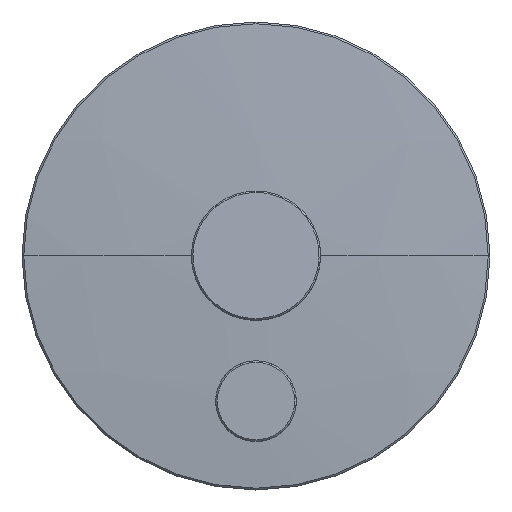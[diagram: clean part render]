
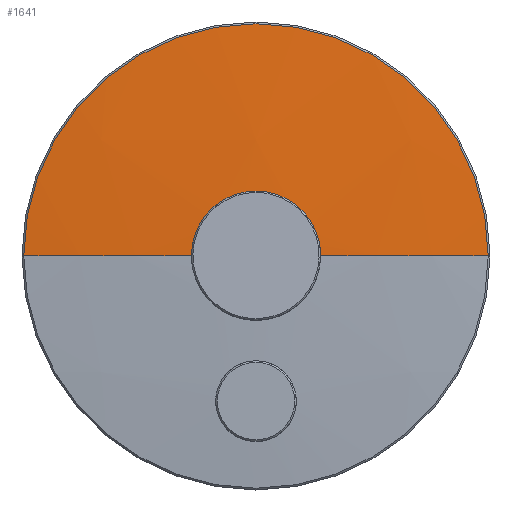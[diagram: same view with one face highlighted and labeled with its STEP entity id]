
A CAD part, top view. The second image highlights one B-rep face of the part: STEP entity #1641.
In plain terms, the highlighted spherical face has radius 877.542 mm.
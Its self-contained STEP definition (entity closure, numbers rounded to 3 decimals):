
#33 = VERTEX_POINT ( 'NONE', #1393 ) ;
#115 = ORIENTED_EDGE ( 'NONE', *, *, #933, .F. ) ;
#236 = VERTEX_POINT ( 'NONE', #1614 ) ;
#246 = VERTEX_POINT ( 'NONE', #1099 ) ;
#268 = CARTESIAN_POINT ( 'NONE',  ( 0., 0., -866.542 ) ) ;
#298 = AXIS2_PLACEMENT_3D ( 'NONE', #268, #532, #1703 ) ;
#299 = FACE_OUTER_BOUND ( 'NONE', #1373, .T. ) ;
#410 = CIRCLE ( 'NONE', #1580, 877.542 ) ;
#492 = EDGE_CURVE ( 'NONE', #730, #33, #795, .T. ) ;
#528 = DIRECTION ( 'NONE',  ( 0., 0., 1. ) ) ;
#532 = DIRECTION ( 'NONE',  ( 0., 1., 0. ) ) ;
#540 = AXIS2_PLACEMENT_3D ( 'NONE', #1499, #1376, #1370 ) ;
#603 = AXIS2_PLACEMENT_3D ( 'NONE', #820, #1617, #840 ) ;
#677 = SPHERICAL_SURFACE ( 'NONE', #298, 877.542 ) ;
#694 = ORIENTED_EDGE ( 'NONE', *, *, #492, .T. ) ;
#730 = VERTEX_POINT ( 'NONE', #1333 ) ;
#744 = CIRCLE ( 'NONE', #603, 20. ) ;
#795 = CIRCLE ( 'NONE', #1389, 71.955 ) ;
#820 = CARTESIAN_POINT ( 'NONE',  ( 0., 0., 10.772 ) ) ;
#840 = DIRECTION ( 'NONE',  ( -1., 0., 0. ) ) ;
#933 = EDGE_CURVE ( 'NONE', #730, #236, #410, .T. ) ;
#968 = CARTESIAN_POINT ( 'NONE',  ( 0., 0., -866.542 ) ) ;
#1099 = CARTESIAN_POINT ( 'NONE',  ( -20., 0., 10.772 ) ) ;
#1177 = CARTESIAN_POINT ( 'NONE',  ( 0., 0., 8.045 ) ) ;
#1280 = CIRCLE ( 'NONE', #540, 877.542 ) ;
#1321 = EDGE_CURVE ( 'NONE', #33, #246, #1280, .T. ) ;
#1333 = CARTESIAN_POINT ( 'NONE',  ( 71.955, 0., 8.045 ) ) ;
#1364 = DIRECTION ( 'NONE',  ( 0., 0., -1. ) ) ;
#1370 = DIRECTION ( 'NONE',  ( -1., 0., 0. ) ) ;
#1373 = EDGE_LOOP ( 'NONE', ( #694, #1511, #1484, #115 ) ) ;
#1376 = DIRECTION ( 'NONE',  ( 0., 1., 0. ) ) ;
#1389 = AXIS2_PLACEMENT_3D ( 'NONE', #1177, #528, #1445 ) ;
#1393 = CARTESIAN_POINT ( 'NONE',  ( -71.955, 0., 8.045 ) ) ;
#1442 = EDGE_CURVE ( 'NONE', #236, #246, #744, .T. ) ;
#1445 = DIRECTION ( 'NONE',  ( -1., 0., 0. ) ) ;
#1484 = ORIENTED_EDGE ( 'NONE', *, *, #1442, .F. ) ;
#1491 = DIRECTION ( 'NONE',  ( 0., -1., 0. ) ) ;
#1499 = CARTESIAN_POINT ( 'NONE',  ( 0., 0., -866.542 ) ) ;
#1511 = ORIENTED_EDGE ( 'NONE', *, *, #1321, .T. ) ;
#1580 = AXIS2_PLACEMENT_3D ( 'NONE', #968, #1491, #1364 ) ;
#1614 = CARTESIAN_POINT ( 'NONE',  ( 20., 0., 10.772 ) ) ;
#1617 = DIRECTION ( 'NONE',  ( 0., 0., 1. ) ) ;
#1641 = ADVANCED_FACE ( 'NONE', ( #299 ), #677, .T. ) ;
#1703 = DIRECTION ( 'NONE',  ( 1., 0., 0. ) ) ;
